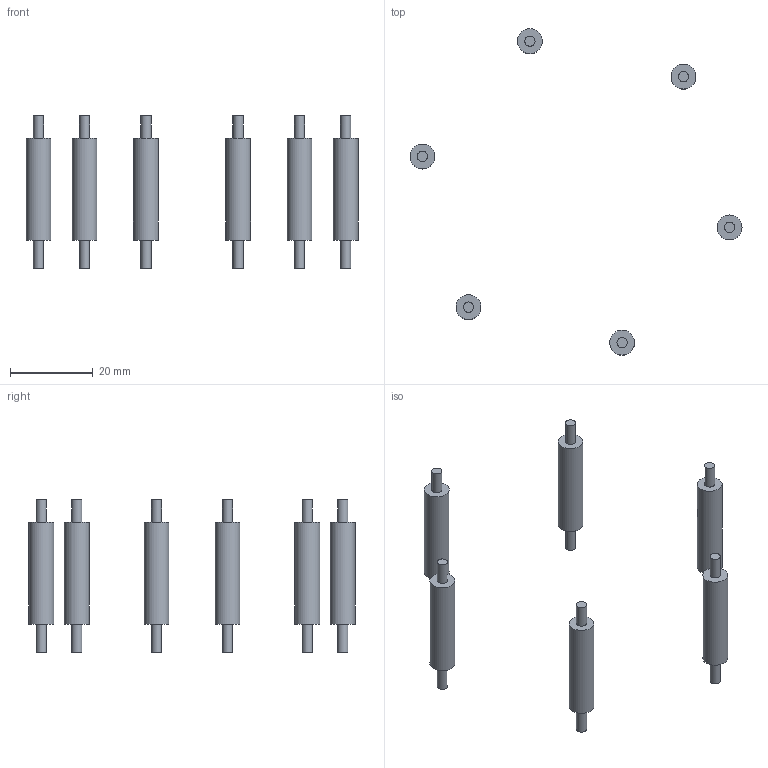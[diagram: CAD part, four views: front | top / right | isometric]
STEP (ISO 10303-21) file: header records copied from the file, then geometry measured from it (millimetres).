
FILE_DESCRIPTION(('Open CASCADE Model'),'2;1');
FILE_NAME('Open CASCADE Shape Model','2026-09-23T03:30:46',('Author'),( 'Open CASCADE'),'Open CASCADE STEP processor 7.9','Open CASCADE 7.9' ,'Unknown');
FILE_SCHEMA(('AUTOMOTIVE_DESIGN { 1 0 10303 214 1 1 1 1 }'));
Length unit declared in the file: millimetre
Products named in the file (7): Open CASCADE STEP translator 7.9 2; Open CASCADE STEP translator 7.9 2.1; Open CASCADE STEP translator 7.9 2.2; Open CASCADE STEP translator 7.9 2.3; Open CASCADE STEP translator 7.9 2.4; Open CASCADE STEP translator 7.9 2.5; Open CASCADE STEP translator 7.9 2.6
Assembly tree (6 placements, depth 2):
  Open CASCADE STEP translator 7.9 2
    Open CASCADE STEP translator 7.9 2.1
    Open CASCADE STEP translator 7.9 2.2
    Open CASCADE STEP translator 7.9 2.3
    Open CASCADE STEP translator 7.9 2.4
    Open CASCADE STEP translator 7.9 2.5
    Open CASCADE STEP translator 7.9 2.6
Bounding box: 80.05 x 78.68 x 36.8 mm (x, y, z)
Volume: 4512.8 mm3; surface area: 3685.2 mm2
Topology: 6 solids, 6 shells, 42 faces, 54 edges, 36 vertices
Faces by surface type: plane 24, cylinder 18
Full cylindrical faces by diameter (mm): 2.48 x12, 6 x6
Entity records: 1684 total; most frequent: DIRECTION 296, CARTESIAN_POINT 247, ORIENTED_EDGE 108, PCURVE 108, DEFINITIONAL_REPRESENTATION 108, LINE 90, VECTOR 90, AXIS2_PLACEMENT_3D 85
